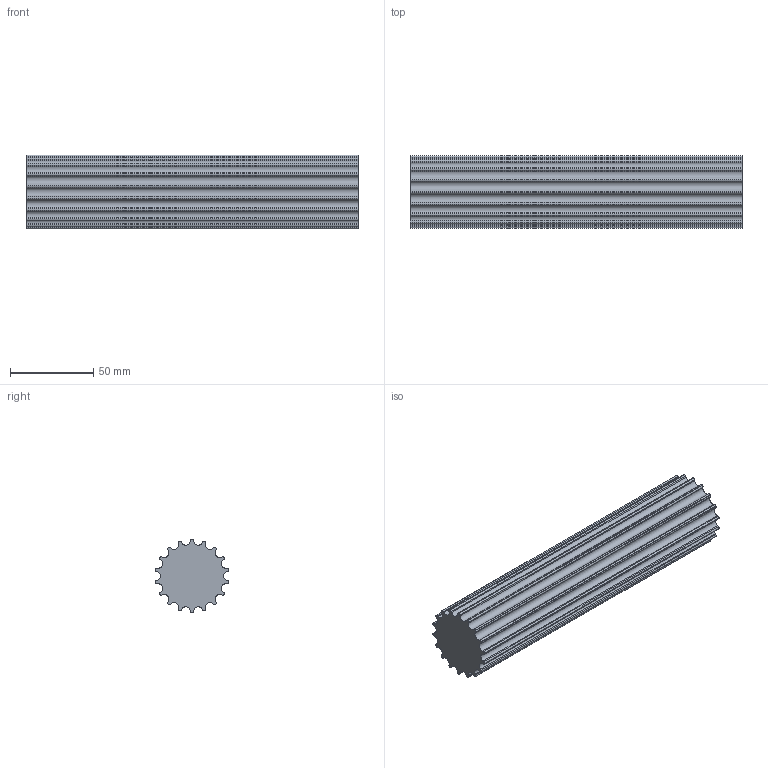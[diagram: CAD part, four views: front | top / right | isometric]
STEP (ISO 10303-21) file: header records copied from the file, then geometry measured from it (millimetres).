
FILE_DESCRIPTION( ( 'STEP AP203' ), '1' );
FILE_NAME( 'C:/Users/Stangenbergd/Desktop/17491801.stp', '2020-08-15T09:47:19', ( 'License CC BY-ND 4.0' ), ( 'CADENAS' ), ' ', 'PARTsolutions', ' ' );
FILE_SCHEMA( ( 'CONFIG_CONTROL_DESIGN' ) );
Length unit declared in the file: millimetre
Products named in the file (1): _17491801
Bounding box: 200 x 43.86 x 44.46 mm (x, y, z)
Volume: 257217 mm3; surface area: 40917.9 mm2
Topology: 1 solids, 1 shells, 110 faces, 324 edges, 216 vertices
Faces by surface type: cylinder 72, plane 38
Entity records: 3776 total; most frequent: DIRECTION 690, CARTESIAN_POINT 651, ORIENTED_EDGE 648, EDGE_CURVE 324, AXIS2_PLACEMENT_3D 255, VERTEX_POINT 216, LINE 180, VECTOR 180
